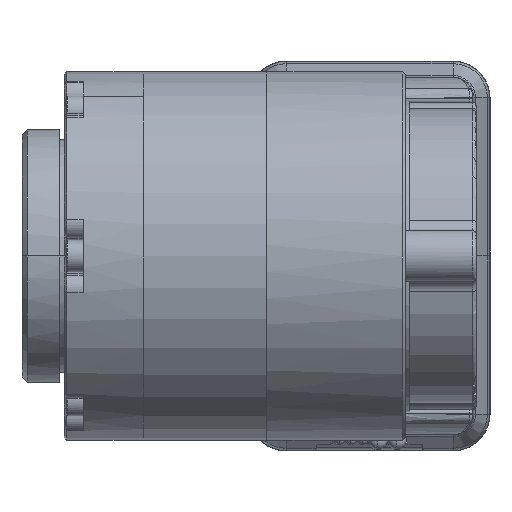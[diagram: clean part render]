
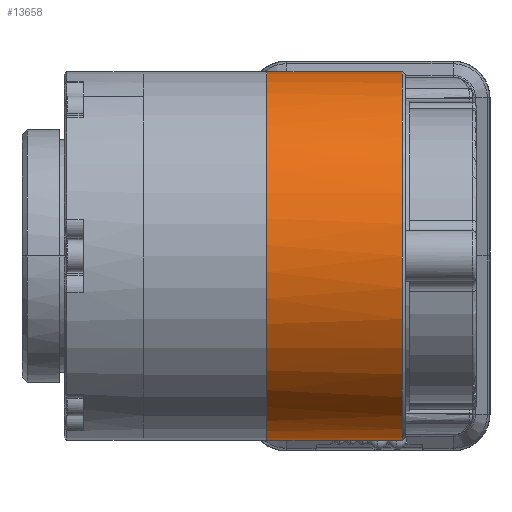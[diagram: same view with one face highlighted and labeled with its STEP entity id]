
A CAD part, front view. The second image highlights one B-rep face of the part: STEP entity #13658.
In plain terms, the highlighted cylindrical face has radius 17.5 mm (diameter 35 mm), a partial arc.
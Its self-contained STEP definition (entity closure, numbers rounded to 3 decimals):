
#1249 = CARTESIAN_POINT ( 'NONE',  ( -2.55, 0., -17.5 ) ) ;
#1776 = EDGE_LOOP ( 'NONE', ( #13453, #32551, #33243, #26822 ) ) ;
#1983 = VERTEX_POINT ( 'NONE', #39180 ) ;
#2556 = CARTESIAN_POINT ( 'NONE',  ( -2.55, -6.186, -16.522 ) ) ;
#5892 = CARTESIAN_POINT ( 'NONE',  ( 10.3, 0., 17.5 ) ) ;
#7011 = CYLINDRICAL_SURFACE ( 'NONE', #45699, 17.5 ) ;
#7929 = CARTESIAN_POINT ( 'NONE',  ( -4.001, 0., 17.5 ) ) ;
#8107 = CARTESIAN_POINT ( 'NONE',  ( -2.55, 0., 17.5 ) ) ;
#8361 = VECTOR ( 'NONE', #13074, 1000. ) ;
#8391 = EDGE_CURVE ( 'NONE', #44193, #1983, #33082, .T. ) ;
#9939 = DIRECTION ( 'NONE',  ( 1., 0., 0. ) ) ;
#12451 = CARTESIAN_POINT ( 'NONE',  ( 10.3, 0., -17.5 ) ) ;
#12770 = LINE ( 'NONE', #7929, #8361 ) ;
#13074 = DIRECTION ( 'NONE',  ( 1., 0., 0. ) ) ;
#13453 = ORIENTED_EDGE ( 'NONE', *, *, #19577, .F. ) ;
#13505 = CARTESIAN_POINT ( 'NONE',  ( -2.55, -12.684, -12.333 ) ) ;
#13658 = ADVANCED_FACE ( 'NONE', ( #15063 ), #7011, .T. ) ;
#14165 = CARTESIAN_POINT ( 'NONE',  ( -2.55, -3.465, -17.212 ) ) ;
#14907 = CARTESIAN_POINT ( 'NONE',  ( -2.55, -1.158, -17.5 ) ) ;
#15063 = FACE_OUTER_BOUND ( 'NONE', #1776, .T. ) ;
#16545 = EDGE_CURVE ( 'NONE', #37617, #51644, #31839, .T. ) ;
#17478 = CARTESIAN_POINT ( 'NONE',  ( -2.55, -4.889, 16.924 ) ) ;
#17913 = DIRECTION ( 'NONE',  ( 0., 0., -1. ) ) ;
#18809 = CARTESIAN_POINT ( 'NONE',  ( -2.55, -2.317, -17.404 ) ) ;
#19577 = EDGE_CURVE ( 'NONE', #44193, #51644, #12770, .T. ) ;
#20867 = DIRECTION ( 'NONE',  ( -1., 0., 0. ) ) ;
#21927 = CARTESIAN_POINT ( 'NONE',  ( -2.55, -3.279, 17.308 ) ) ;
#26816 = CARTESIAN_POINT ( 'NONE',  ( -2.55, -12.003, 12.894 ) ) ;
#26822 = ORIENTED_EDGE ( 'NONE', *, *, #16545, .T. ) ;
#27053 = CARTESIAN_POINT ( 'NONE',  ( -4.001, 0., 0. ) ) ;
#29272 = CARTESIAN_POINT ( 'NONE',  ( -2.55, -8.726, -15.303 ) ) ;
#31182 = CARTESIAN_POINT ( 'NONE',  ( -2.55, -14.695, -9.715 ) ) ;
#31839 = CIRCLE ( 'NONE', #54936, 17.5 ) ;
#32330 = CARTESIAN_POINT ( 'NONE',  ( -2.55, 0., 17.5 ) ) ;
#32551 = ORIENTED_EDGE ( 'NONE', *, *, #8391, .T. ) ;
#33082 = B_SPLINE_CURVE_WITH_KNOTS ( 'NONE', 5,
 ( #8107, #49454, #21927, #17478, #54544, #54743, #26816, #35612, #59438, #55556, #41655, #46906, #43387, #34264, #49728, #31182, #13505, #46837, #29272, #2556, #14165, #18809, #14907, #1249 ),
 .UNSPECIFIED., .F., .F.,
 ( 6, 3, 3, 3, 3, 3, 3, 6 ),
 ( 0., 11.593, 23.186, 34.779, 46.372, 57.965, 69.558, 77.75 ),
 .UNSPECIFIED. ) ;
#33243 = ORIENTED_EDGE ( 'NONE', *, *, #35998, .T. ) ;
#34264 = CARTESIAN_POINT ( 'NONE',  ( -2.55, -16.886, -5.278 ) ) ;
#35612 = CARTESIAN_POINT ( 'NONE',  ( -2.55, -14.255, 10.479 ) ) ;
#35998 = EDGE_CURVE ( 'NONE', #1983, #37617, #47869, .T. ) ;
#37617 = VERTEX_POINT ( 'NONE', #12451 ) ;
#39180 = CARTESIAN_POINT ( 'NONE',  ( -2.55, 0., -17.5 ) ) ;
#41655 = CARTESIAN_POINT ( 'NONE',  ( -2.55, -17.45, 2.915 ) ) ;
#43387 = CARTESIAN_POINT ( 'NONE',  ( -2.55, -17.498, -2.034 ) ) ;
#44188 = VECTOR ( 'NONE', #9939, 1000. ) ;
#44193 = VERTEX_POINT ( 'NONE', #32330 ) ;
#45699 = AXIS2_PLACEMENT_3D ( 'NONE', #27053, #55192, #17913 ) ;
#46837 = CARTESIAN_POINT ( 'NONE',  ( -2.55, -10.123, -14.417 ) ) ;
#46906 = CARTESIAN_POINT ( 'NONE',  ( -2.55, -17.612, -0.383 ) ) ;
#47869 = LINE ( 'NONE', #52071, #44188 ) ;
#48618 = CARTESIAN_POINT ( 'NONE',  ( 10.3, 0., 0. ) ) ;
#49454 = CARTESIAN_POINT ( 'NONE',  ( -2.55, -1.639, 17.5 ) ) ;
#49728 = CARTESIAN_POINT ( 'NONE',  ( -2.55, -15.542, -8.293 ) ) ;
#51644 = VERTEX_POINT ( 'NONE', #5892 ) ;
#52071 = CARTESIAN_POINT ( 'NONE',  ( -4.001, 0., -17.5 ) ) ;
#54544 = CARTESIAN_POINT ( 'NONE',  ( -2.55, -7.988, 15.786 ) ) ;
#54743 = CARTESIAN_POINT ( 'NONE',  ( -2.55, -10.74, 13.963 ) ) ;
#54936 = AXIS2_PLACEMENT_3D ( 'NONE', #48618, #20867, #56750 ) ;
#55192 = DIRECTION ( 'NONE',  ( 1., 0., 0. ) ) ;
#55556 = CARTESIAN_POINT ( 'NONE',  ( -2.55, -16.531, 6.086 ) ) ;
#56750 = DIRECTION ( 'NONE',  ( 0., -1., 0. ) ) ;
#59438 = CARTESIAN_POINT ( 'NONE',  ( -2.55, -15.887, 7.61 ) ) ;
